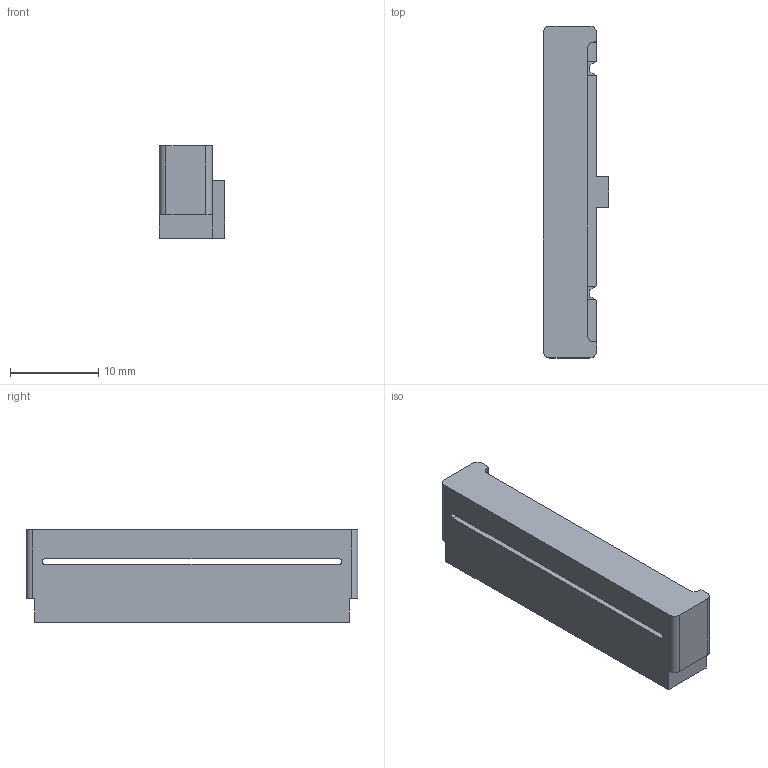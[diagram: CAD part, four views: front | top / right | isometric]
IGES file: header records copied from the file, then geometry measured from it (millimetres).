
Start section: Comment
Global section: file name: 3399-6000SE.igs; native system:  By Spatial Corp. IGES DAT; preprocessor: XIGES V1.0; author: Author; organization: Title; date: 20060203.080638; units: metre
Bounding box: 7.44 x 37.54 x 10.46 mm (x, y, z)
Surface area: 2212 mm2 (no closed solid volume)
Topology: 0 solids, 0 shells, 262 faces, 1354 edges, 1354 vertices
Faces by surface type: extrusion 254, revolution 8
